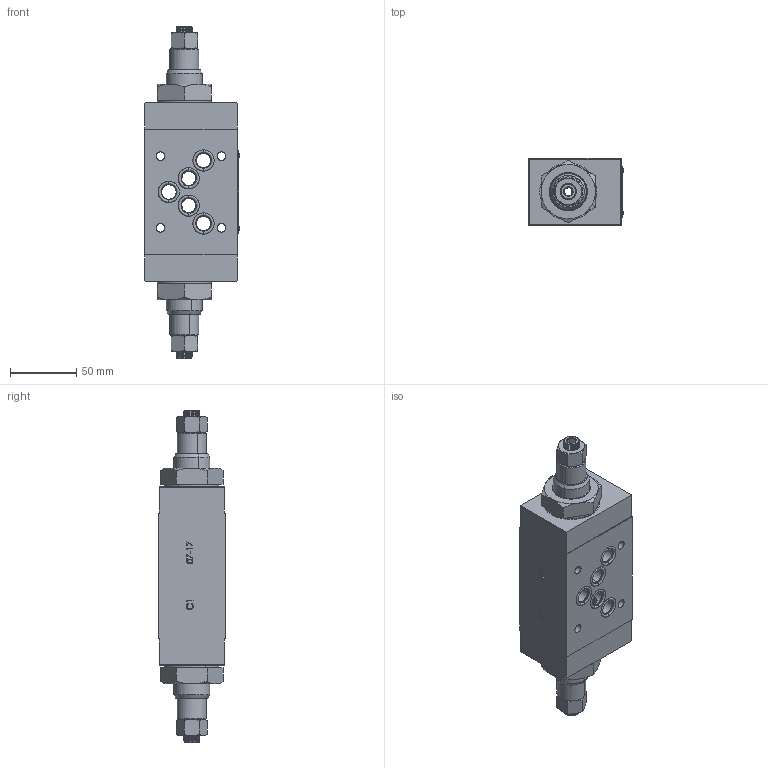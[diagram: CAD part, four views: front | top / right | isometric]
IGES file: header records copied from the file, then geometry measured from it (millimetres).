
Start section: SolidWorks IGES file using analytic representation for surfaces
Global section: file name: C:\Users\pc-te25\Desktop\358-5-AB-05.IGS; native system: SolidWorks 2018; preprocessor: SolidWorks 2018; author: pc-te25; date: 191204.094837; units: millimetre
Bounding box: 71.66 x 50.58 x 250.6 mm (x, y, z)
Surface area: 66244.3 mm2 (no closed solid volume)
Topology: 0 solids, 0 shells, 691 faces, 13840 edges, 13838 vertices
Faces by surface type: bspline 436, revolution 255
